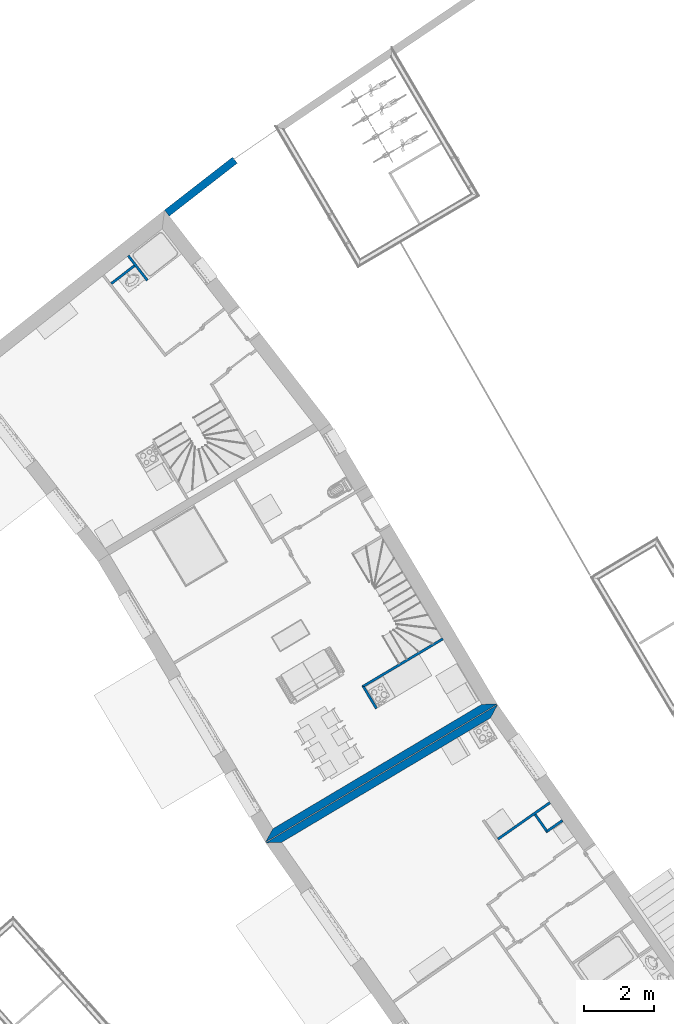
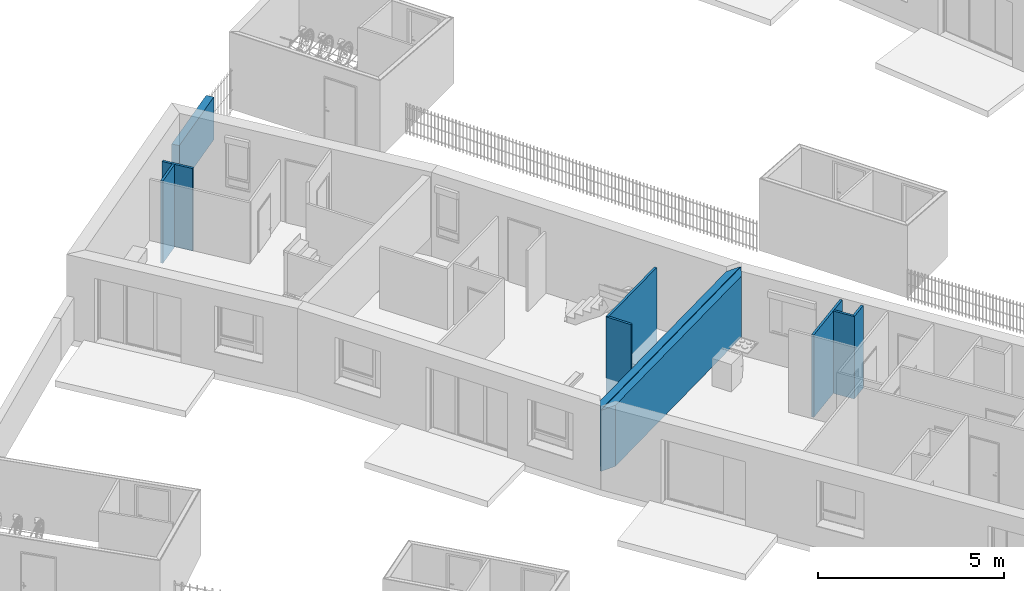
# One storey, part 46 of 195: 10 walls.
"""IFC2X3 building model written with IfcOpenShell, lengths in metres."""

from ifc_helpers import new_model, entity, si_unit, converted_unit, derived_unit, money_unit, direction, frame, origin_with_axes, place, context, subcontext, project, spatial, polyline, outline, extrude, material, layer, layer_set, layer_usage, type_object, element, save


model = new_model("IFC2X3")

# Units and contexts
model_context = context("Model", 3, precision=1e-05, world=origin_with_axes(), true_north=direction((0.0, 1.0)))
body_context = subcontext(model_context, "Body", "Model", "MODEL_VIEW")
ifc_project = project(units=[si_unit("LENGTHUNIT", "METRE"), si_unit("AREAUNIT", "SQUARE_METRE"), si_unit("VOLUMEUNIT", "CUBIC_METRE"), converted_unit("PLANEANGLEUNIT", "DEGREE", entity("IfcPlaneAngleMeasure", 0.0174532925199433), si_unit("PLANEANGLEUNIT", "RADIAN"), dimensions=[0, 0, 0, 0, 0, 0, 0]), money_unit("CHF"), converted_unit("TIMEUNIT", "Year", entity("IfcTimeMeasure", 31557600.0), si_unit("TIMEUNIT", "SECOND"), dimensions=[0, 0, 1, 0, 0, 0, 0]), si_unit("MASSUNIT", "GRAM", prefix="KILO"), si_unit("THERMODYNAMICTEMPERATUREUNIT", "DEGREE_CELSIUS"), si_unit("LUMINOUSINTENSITYUNIT", "LUMEN"), si_unit("ENERGYUNIT", "JOULE", prefix="MEGA"), derived_unit("THERMALCONDUCTANCEUNIT", [(si_unit("POWERUNIT", "WATT"), 1), (si_unit("LENGTHUNIT", "METRE"), -1), (si_unit("THERMODYNAMICTEMPERATUREUNIT", "KELVIN"), -1)]), derived_unit("SPECIFICHEATCAPACITYUNIT", [(si_unit("ENERGYUNIT", "JOULE"), 1), (si_unit("MASSUNIT", "GRAM", prefix="KILO"), -1), (si_unit("THERMODYNAMICTEMPERATUREUNIT", "KELVIN"), -1)]), derived_unit("MASSDENSITYUNIT", [(si_unit("MASSUNIT", "GRAM", prefix="KILO"), 1), (si_unit("VOLUMEUNIT", "CUBIC_METRE"), -1)])], contexts=[model_context])

# Site, building, storey
site_placement = place(None, origin_with_axes())
site = spatial("IfcSite", under=ifc_project, at=site_placement, Name="Site", CompositionType="ELEMENT")
building_placement = place(site_placement, origin_with_axes())
building = spatial("IfcBuilding", under=site, at=building_placement, Name="Bâtiment", CompositionType="ELEMENT")
storey_placement = place(building_placement, origin_with_axes())
storey = spatial("IfcBuildingStorey", under=building, at=storey_placement, Name="rdc", CompositionType="ELEMENT", Elevation=0.0)

# Walls
ifc_material_1 = material(Name="Hachure solide 268963992")
ifc_layer_1 = layer(ifc_material_1, 0.07, ventilated="UNKNOWN")
ifc_layer_set_1 = layer_set([ifc_layer_1], Name="Cloison 70 0826278243")
ifc_layer_usage_1 = layer_usage(ifc_layer_set_1, "AXIS2", "POSITIVE", 0.0)
wall_type_1 = type_object("IfcWallType", Name="Cloison 70 0826278243 70", PredefinedType="NOTDEFINED")
wall_1_placement = place(storey_placement, frame((9550.871030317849, -1054.435436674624, 57.7), z_axis=(0.0, 0.0, 1.0), x_axis=(0.5741598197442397, -0.8187432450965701, 0.0)))
element("IfcWallStandardCase", 1, at=wall_1_placement, inside=storey, type_object=wall_type_1, material=ifc_layer_usage_1, Name="Mur-149", context=body_context, shape_type="SweptSolid", body=[
    extrude(outline(polyline([(0.0, 0.0), (0.6222241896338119, 0.0), (0.5522261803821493, 0.07000000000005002), (0.0, 0.07000000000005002), (0.0, 0.0)])), origin_with_axes(), (0.0, 0.0, 1.0), 2.7),
])
ifc_layer_usage_2 = layer_usage(ifc_layer_set_1, "AXIS2", "NEGATIVE", 0.0)
wall_2_placement = place(storey_placement, frame((9549.817906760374, -1055.088463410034, 57.7), z_axis=(0.0, 0.0, 1.0), x_axis=(0.8187432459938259, 0.5741598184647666, 0.0)))
element("IfcWallStandardCase", 2, at=wall_2_placement, inside=storey, type_object=wall_type_1, material=ifc_layer_usage_2, Name="Mur-149", context=body_context, shape_type="SweptSolid", body=[
    extrude(outline(polyline([(0.0, -0.07000000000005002), (1.813062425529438, -0.07000000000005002), (1.813062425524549, 0.0), (0.0, 0.0), (0.0, -0.07000000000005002)])), origin_with_axes(), (0.0, 0.0, 1.0), 2.7),
])
ifc_layer_usage_3 = layer_usage(ifc_layer_set_1, "AXIS2", "NEGATIVE", 0.0)
wall_3_placement = place(storey_placement, frame((9551.18809525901, -1054.887566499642, 57.7), z_axis=(0.0, 0.0, 1.0), x_axis=(0.8187595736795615, 0.5741365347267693, 0.0)))
element("IfcWallStandardCase", 3, at=wall_3_placement, inside=storey, type_object=wall_type_1, material=ifc_layer_usage_3, Name="Mur-149", context=body_context, shape_type="SweptSolid", body=[
    extrude(outline(polyline([(1.990776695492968e-06, -0.07000000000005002), (0.5758849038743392, -0.07000000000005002), (0.5758829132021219, 0.0), (0.07000000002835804, 0.0), (1.990776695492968e-06, -0.07000000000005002)])), origin_with_axes(), (0.0, 0.0, 1.0), 2.7),
])
ifc_layer_usage_4 = layer_usage(ifc_layer_set_1, "AXIS2", "POSITIVE", 0.0)
wall_4_placement = place(storey_placement, frame((9538.843458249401, -1039.316482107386, 57.0), z_axis=(0.0, 0.0, 1.0), x_axis=(0.7899554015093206, 0.613164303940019, 0.0)))
element("IfcWallStandardCase", 4, at=wall_4_placement, inside=storey, type_object=wall_type_1, material=ifc_layer_usage_4, Name="Mur-149", context=body_context, shape_type="SweptSolid", body=[
    extrude(outline(polyline([(-2.419255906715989e-10, 0.0), (0.834511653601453, 0.0), (0.8345116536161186, 0.07000000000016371), (-2.447677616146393e-10, 0.07000000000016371), (-2.419255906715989e-10, 0.0)])), origin_with_axes(), (0.0, 0.0, 1.0), 2.7),
])
ifc_layer_usage_5 = layer_usage(ifc_layer_set_1, "AXIS2", "POSITIVE", 0.0)
wall_5_placement = place(storey_placement, frame((9546.407702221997, -1051.375963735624, 57.0), z_axis=(0.0, 0.0, 1.0), x_axis=(-0.5118298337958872, 0.8590868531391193, 0.0)))
element("IfcWallStandardCase", 5, at=wall_5_placement, inside=storey, type_object=wall_type_1, material=ifc_layer_usage_5, Name="Mur-149", context=body_context, shape_type="SweptSolid", body=[
    extrude(outline(polyline([(0.0, 0.0), (0.7005269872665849, 0.0), (0.7705269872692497, 0.07000000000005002), (0.0, 0.07000000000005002), (0.0, 0.0)])), origin_with_axes(), (0.0, 0.0, 1.0), 2.7),
])
ifc_layer_usage_6 = layer_usage(ifc_layer_set_1, "AXIS2", "POSITIVE", 0.0)
wall_6_placement = place(storey_placement, frame((9548.578636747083, -1049.185642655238, 57.0), z_axis=(0.0, 0.0, 1.0), x_axis=(-0.8590868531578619, -0.5118298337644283, 0.0)))
element("IfcWallStandardCase", 6, at=wall_6_placement, inside=storey, type_object=wall_type_1, material=ifc_layer_usage_6, Name="Mur-149", context=body_context, shape_type="SweptSolid", body=[
    extrude(outline(polyline([(0.3800000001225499, 0.0), (3.056092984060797, 0.0), (2.986092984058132, 0.07000000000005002), (0.3800000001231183, 0.07000000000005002), (0.3800000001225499, 0.0)])), origin_with_axes(), (0.0, 0.0, 1.0), 2.7),
])
ifc_layer_usage_7 = layer_usage(ifc_layer_set_1, "AXIS2", "POSITIVE", 0.0)
wall_7_placement = place(storey_placement, frame((9539.877763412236, -1039.17385034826, 57.0), z_axis=(0.0, 0.0, 1.0), x_axis=(-0.613164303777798, 0.7899554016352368, 0.0)))
element("IfcWallStandardCase", 7, at=wall_7_placement, inside=storey, type_object=wall_type_1, material=ifc_layer_usage_7, Name="Mur-149", context=body_context, shape_type="SweptSolid", body=[
    extrude(outline(polyline([(0.0, 0.0), (0.8894662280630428, 0.0), (0.8888517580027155, 0.07000000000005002), (0.0, 0.07000000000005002), (0.0, 0.0)])), origin_with_axes(), (0.0, 0.0, 1.0), 2.7),
])
ifc_material_2 = material(Name="Parpaing 314940890")
ifc_layer_2 = layer(ifc_material_2, 0.22, ventilated="UNKNOWN")
ifc_layer_set_2 = layer_set([ifc_layer_2], Name="Beton  22 0836643197")
ifc_layer_usage_8 = layer_usage(ifc_layer_set_2, "AXIS2", "POSITIVE", 0.0)
wall_type_2 = type_object("IfcWallType", Name="Beton  22 0836643197 220", PredefinedType="NOTDEFINED")
wall_8_placement = place(storey_placement, frame((9543.212814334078, -1055.206014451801, 58.3), z_axis=(0.0, 0.0, 1.0), x_axis=(0.8590868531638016, 0.5118298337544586, 0.0)))
element("IfcWallStandardCase", 8, at=wall_8_placement, inside=storey, type_object=wall_type_2, material=ifc_layer_usage_8, Name="Mur-105", context=body_context, shape_type="SweptSolid", body=[
    extrude(outline(polyline([(0.0, 0.0), (7.691113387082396, 0.0), (7.311113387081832, 0.2199999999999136), (0.3799999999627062, 0.2199999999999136), (0.0, 0.0)])), origin_with_axes(), (0.0, 0.0, 1.0), 2.0),
])
ifc_layer_usage_9 = layer_usage(ifc_layer_set_2, "AXIS2", "NEGATIVE", 0.0)
wall_9_placement = place(storey_placement, frame((9543.2230509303, -1055.223196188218, 58.3), z_axis=(0.0, 0.0, 1.0), x_axis=(0.8590868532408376, 0.5118298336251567, 0.0)))
element("IfcWallStandardCase", 9, at=wall_9_placement, inside=storey, type_object=wall_type_2, material=ifc_layer_usage_9, Name="Mur-105", context=body_context, shape_type="SweptSolid", body=[
    extrude(outline(polyline([(0.3974185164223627, -0.2200000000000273), (7.326431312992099, -0.2200000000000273), (7.69111338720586, 0.0), (0.0, 0.0), (0.3974185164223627, -0.2200000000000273)])), origin_with_axes(), (0.0, 0.0, 1.0), 2.0),
])
ifc_material_3 = material(Name="Empty Fill 3000033799")
ifc_layer_3 = layer(ifc_material_3, 0.22, ventilated="UNKNOWN")
ifc_layer_set_3 = layer_set([ifc_layer_3], Name="acrotère 22")
ifc_layer_usage_10 = layer_usage(ifc_layer_set_3, "AXIS2", "POSITIVE", 0.0)
wall_type_3 = type_object("IfcWallType", Name="acrotère 22 220", PredefinedType="NOTDEFINED")
wall_10_placement = place(storey_placement, frame((9542.278352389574, -1035.684008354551, 57.7), z_axis=(0.0, 0.0, 1.0), x_axis=(-0.7895777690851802, -0.6136505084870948, 0.0)))
element("IfcWallStandardCase", 10, at=wall_10_placement, inside=storey, type_object=wall_type_3, material=ifc_layer_usage_10, Name="Mur-108", context=body_context, shape_type="SweptSolid", body=[
    extrude(outline(polyline([(0.0, 0.0), (2.456007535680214, 0.0), (2.456256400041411, 0.2200000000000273), (0.0, 0.2200000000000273), (0.0, 0.0)])), origin_with_axes(), (0.0, 0.0, 1.0), 1.4),
])

save(model, "model.ifc")
